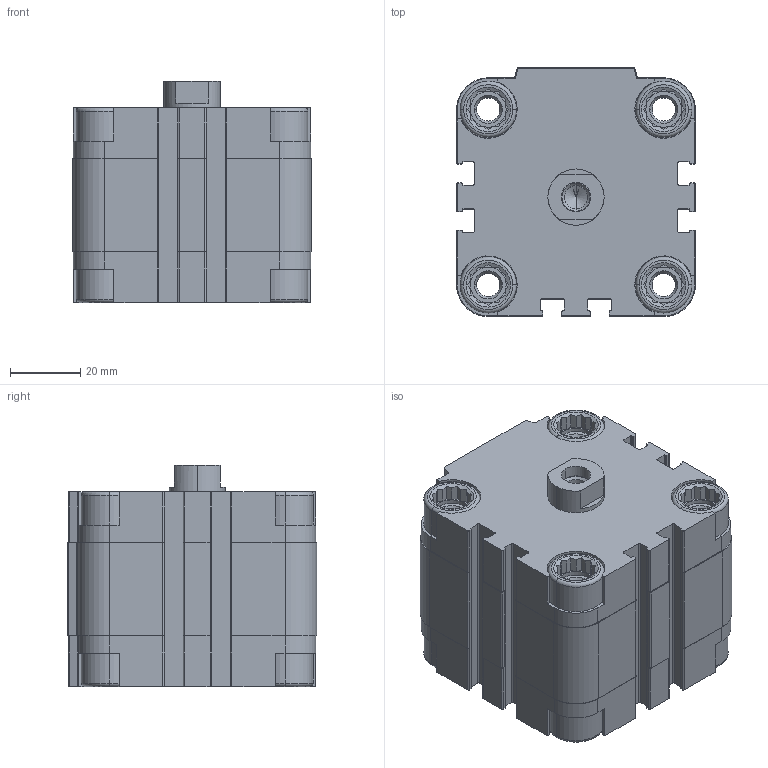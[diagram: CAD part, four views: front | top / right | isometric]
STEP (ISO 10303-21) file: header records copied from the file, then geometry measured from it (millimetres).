
FILE_DESCRIPTION (( 'STEP AP203' ), '1' );
FILE_NAME ('CDVU50-10F.STEP', '2020-03-30T14:59:47', ( '' ), ( '' ), 'SwSTEP 2.0', 'SolidWorks 2019', '' );
FILE_SCHEMA (( 'CONFIG_CONTROL_DESIGN' ));
Length unit declared in the file: millimetre
Products named in the file (1): CDVU50-10F
Bounding box: 68 x 71 x 63 mm (x, y, z)
Volume: 212611.3 mm3; surface area: 52992.8 mm2
Topology: 2 solids, 2 shells, 709 faces, 1894 edges, 1223 vertices
Faces by surface type: plane 417, cylinder 230, cone 46, torus 16
Entity records: 22245 total; most frequent: CARTESIAN_POINT 4397, ORIENTED_EDGE 3776, DIRECTION 3652, EDGE_CURVE 1888, AXIS2_PLACEMENT_3D 1246, VERTEX_POINT 1223, LINE 1160, VECTOR 1160
